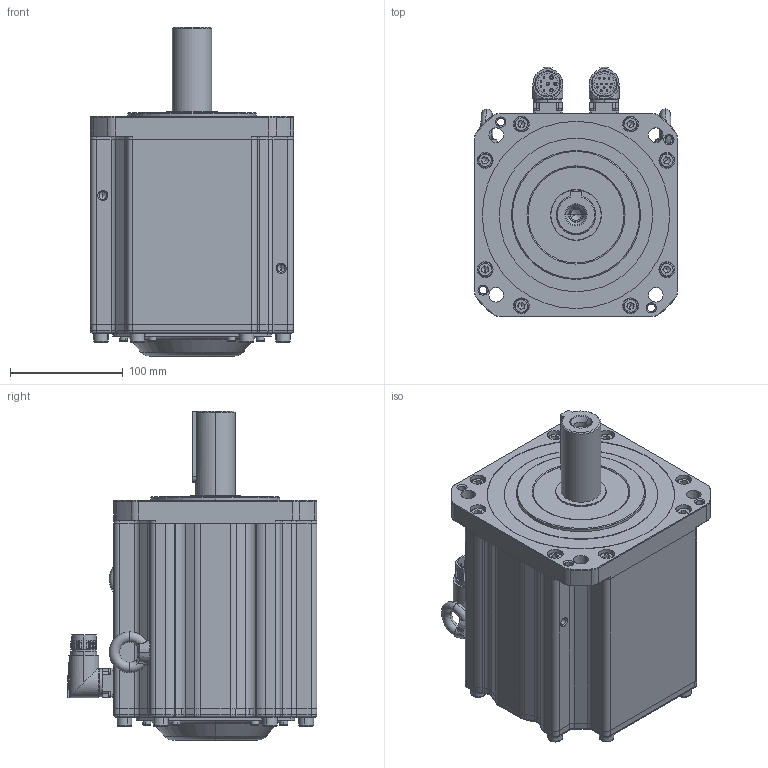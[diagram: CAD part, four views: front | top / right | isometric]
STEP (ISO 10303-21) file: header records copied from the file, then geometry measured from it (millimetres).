
FILE_DESCRIPTION (( 'STEP AP203' ), '1' );
FILE_NAME ('MC20-180-3M20-N352-1¡õPK-NNNN.STEP', '2025-05-05T03:30:28', ( '' ), ( '' ), 'SwSTEP 2.0', 'SolidWorks 2014', '' );
FILE_SCHEMA (( 'CONFIG_CONTROL_DESIGN' ));
Length unit declared in the file: millimetre
Products named in the file (1): MC20-180-3M20-N352-1¡õPK-NNNN
Bounding box: 180 x 221.35 x 291.95 mm (x, y, z)
Volume: 4072640 mm3; surface area: 534434.4 mm2
Topology: 40 solids, 42 shells, 2190 faces, 5098 edges, 3031 vertices
Faces by surface type: plane 883, cylinder 569, cone 483, torus 208, bspline 47
Entity records: 63884 total; most frequent: CARTESIAN_POINT 13740, DIRECTION 11030, ORIENTED_EDGE 9944, EDGE_CURVE 4972, AXIS2_PLACEMENT_3D 4270, VERTEX_POINT 3031, VECTOR 2490, LINE 2490
